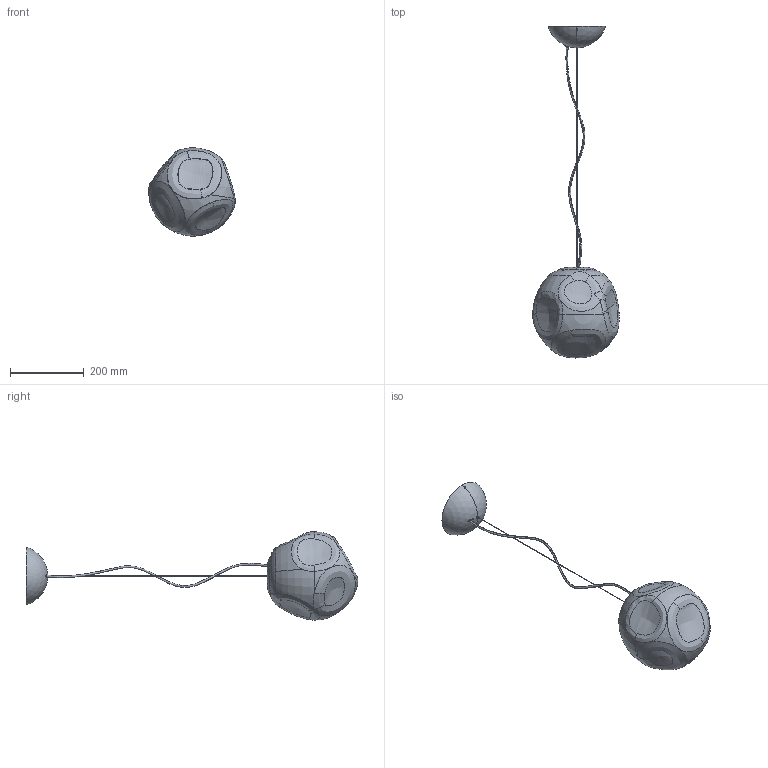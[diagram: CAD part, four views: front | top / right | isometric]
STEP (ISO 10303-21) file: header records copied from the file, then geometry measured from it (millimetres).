
FILE_DESCRIPTION (( 'STEP AP203' ), '1' );
FILE_NAME ('325_MEDIA_S_ME_3D.STEP', '2023-12-13T11:12:26', ( '' ), ( '' ), 'SwSTEP 2.0', 'SolidWorks 2023', '' );
FILE_SCHEMA (( 'CONFIG_CONTROL_DESIGN' ));
Length unit declared in the file: millimetre
Products named in the file (1): 325_MEDIA_S_ME_3D
Bounding box: 234.88 x 901.62 x 239.99 mm (x, y, z)
Surface area: 442967.9 mm2 (no closed solid volume)
Topology: 0 solids, 7 shells, 1411 faces, 3586 edges, 2110 vertices
Faces by surface type: bspline 544, torus 222, cylinder 205, plane 205, cone 135, sphere 100
Entity records: 91492 total; most frequent: CARTESIAN_POINT 62435, ORIENTED_EDGE 6964, DIRECTION 5065, EDGE_CURVE 3487, AXIS2_PLACEMENT_3D 2260, VERTEX_POINT 2100, EDGE_LOOP 1446, FACE_OUTER_BOUND 1411
